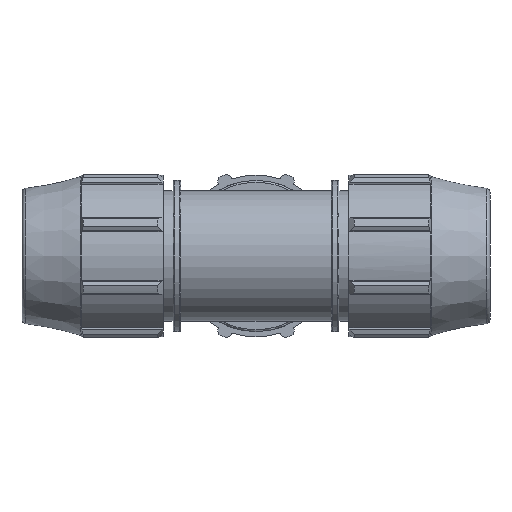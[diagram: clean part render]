
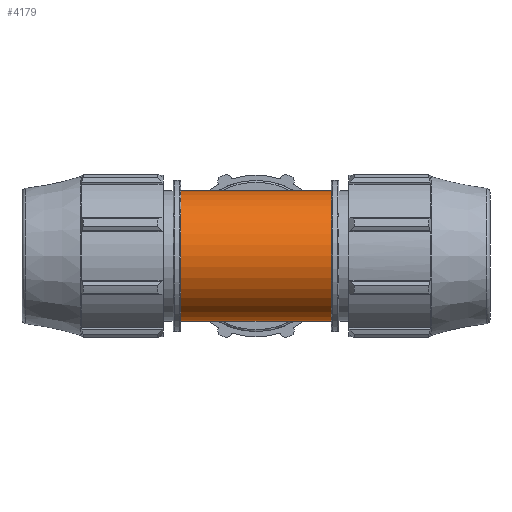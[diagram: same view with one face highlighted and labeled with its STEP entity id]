
A CAD part, front view. The second image highlights one B-rep face of the part: STEP entity #4179.
In plain terms, the highlighted cylindrical face has radius 30.766 mm (diameter 61.531 mm), a full revolution.
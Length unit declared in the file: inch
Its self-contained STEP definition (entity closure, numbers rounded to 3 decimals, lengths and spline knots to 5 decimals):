
#140=ELLIPSE('',#4425,1.71297,1.21125);
#141=ELLIPSE('',#4426,1.71297,1.21125);
#142=ELLIPSE('',#4427,1.71297,1.21125);
#147=LINE('',#6078,#461);
#461=VECTOR('',#4884,1.21125);
#775=CYLINDRICAL_SURFACE('',#4421,1.21125);
#837=FACE_BOUND('',#1072,.T.);
#857=FACE_OUTER_BOUND('',#1071,.T.);
#1071=EDGE_LOOP('',(#2599,#2600,#2601,#2602,#2603));
#1072=EDGE_LOOP('',(#2604,#2605,#2606));
#1307=CIRCLE('',#4422,1.21125);
#1308=CIRCLE('',#4423,1.21125);
#1309=CIRCLE('',#4424,1.21125);
#1530=VERTEX_POINT('',#6073);
#1531=VERTEX_POINT('',#6074);
#1532=VERTEX_POINT('',#6077);
#1533=VERTEX_POINT('',#6080);
#1534=VERTEX_POINT('',#6081);
#1535=VERTEX_POINT('',#6083);
#1964=EDGE_CURVE('',#1530,#1531,#1307,.T.);
#1965=EDGE_CURVE('',#1531,#1530,#1308,.T.);
#1966=EDGE_CURVE('',#1531,#1532,#147,.T.);
#1967=EDGE_CURVE('',#1532,#1532,#1309,.T.);
#1968=EDGE_CURVE('',#1533,#1534,#140,.T.);
#1969=EDGE_CURVE('',#1534,#1535,#141,.T.);
#1970=EDGE_CURVE('',#1535,#1533,#142,.T.);
#2599=ORIENTED_EDGE('',*,*,#1964,.F.);
#2600=ORIENTED_EDGE('',*,*,#1965,.F.);
#2601=ORIENTED_EDGE('',*,*,#1966,.T.);
#2602=ORIENTED_EDGE('',*,*,#1967,.F.);
#2603=ORIENTED_EDGE('',*,*,#1966,.F.);
#2604=ORIENTED_EDGE('',*,*,#1968,.T.);
#2605=ORIENTED_EDGE('',*,*,#1969,.T.);
#2606=ORIENTED_EDGE('',*,*,#1970,.T.);
#4179=ADVANCED_FACE('',(#857,#837),#775,.T.);
#4421=AXIS2_PLACEMENT_3D('',#6072,#4878,#4879);
#4422=AXIS2_PLACEMENT_3D('',#6075,#4880,#4881);
#4423=AXIS2_PLACEMENT_3D('',#6076,#4882,#4883);
#4424=AXIS2_PLACEMENT_3D('',#6079,#4885,#4886);
#4425=AXIS2_PLACEMENT_3D('',#6082,#4887,#4888);
#4426=AXIS2_PLACEMENT_3D('',#6084,#4889,#4890);
#4427=AXIS2_PLACEMENT_3D('',#6085,#4891,#4892);
#4878=DIRECTION('center_axis',(1.,0.,0.));
#4879=DIRECTION('ref_axis',(0.,1.,0.));
#4880=DIRECTION('center_axis',(1.,0.,0.));
#4881=DIRECTION('ref_axis',(0.,0.,-1.));
#4882=DIRECTION('center_axis',(1.,0.,0.));
#4883=DIRECTION('ref_axis',(0.,0.,-1.));
#4884=DIRECTION('',(-1.,0.,0.));
#4885=DIRECTION('center_axis',(-1.,0.,0.));
#4886=DIRECTION('ref_axis',(0.,0.,-1.));
#4887=DIRECTION('center_axis',(-0.707,-0.707,0.));
#4888=DIRECTION('ref_axis',(-0.707,0.707,0.));
#4889=DIRECTION('center_axis',(0.707,-0.707,0.));
#4890=DIRECTION('ref_axis',(-0.707,-0.707,0.));
#4891=DIRECTION('center_axis',(0.707,-0.707,0.));
#4892=DIRECTION('ref_axis',(-0.707,-0.707,0.));
#6072=CARTESIAN_POINT('Origin',(1.1785,0.,0.));
#6073=CARTESIAN_POINT('',(1.397,1.21125,0.));
#6074=CARTESIAN_POINT('',(1.397,-1.21125,0.));
#6075=CARTESIAN_POINT('Origin',(1.397,0.,0.));
#6076=CARTESIAN_POINT('Origin',(1.397,0.,0.));
#6077=CARTESIAN_POINT('',(-1.397,-1.21125,0.));
#6078=CARTESIAN_POINT('',(1.1785,-1.21125,0.));
#6079=CARTESIAN_POINT('Origin',(-1.397,0.,0.));
#6080=CARTESIAN_POINT('',(0.,0.,1.21125));
#6081=CARTESIAN_POINT('',(0.,0.,-1.21125));
#6082=CARTESIAN_POINT('Origin',(0.,0.,0.));
#6083=CARTESIAN_POINT('',(1.21125,1.21125,0.));
#6084=CARTESIAN_POINT('Origin',(0.,0.,0.));
#6085=CARTESIAN_POINT('Origin',(0.,0.,0.));
